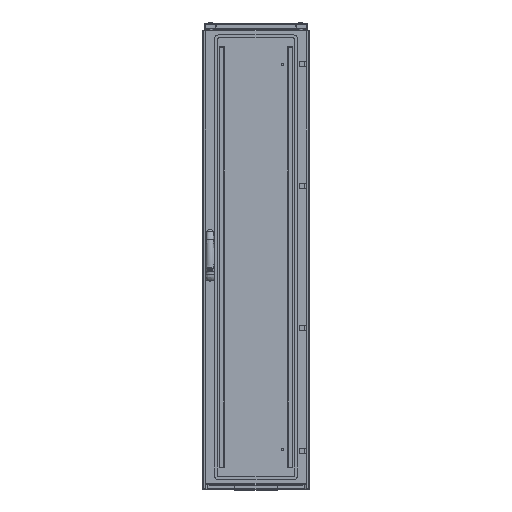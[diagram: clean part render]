
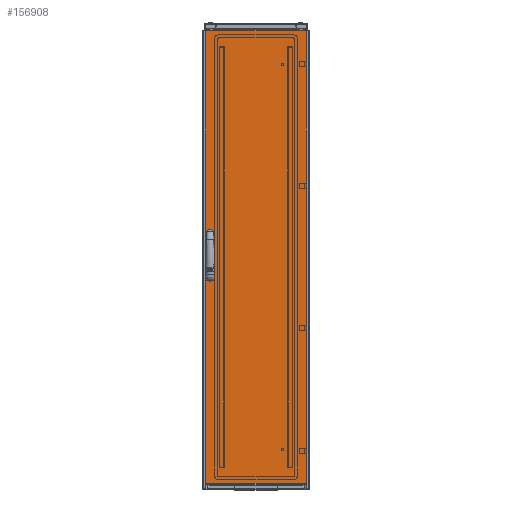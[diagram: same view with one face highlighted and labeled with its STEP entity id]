
A CAD part, top view. The second image highlights one B-rep face of the part: STEP entity #156908.
In plain terms, the highlighted planar face has unit normal (0, 0, 1).
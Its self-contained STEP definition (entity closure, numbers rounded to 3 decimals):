
#3746 = LINE ( 'NONE', #91795, #67844 ) ;
#7343 = ORIENTED_EDGE ( 'NONE', *, *, #113097, .F. ) ;
#15153 = VECTOR ( 'NONE', #106034, 1000. ) ;
#16876 = VERTEX_POINT ( 'NONE', #251259 ) ;
#19387 = EDGE_LOOP ( 'NONE', ( #196636, #264449, #124843, #31586 ) ) ;
#22977 = VERTEX_POINT ( 'NONE', #36073 ) ;
#29112 = ORIENTED_EDGE ( 'NONE', *, *, #128283, .F. ) ;
#31586 = ORIENTED_EDGE ( 'NONE', *, *, #280177, .T. ) ;
#35603 = EDGE_CURVE ( 'NONE', #265629, #190950, #126557, .T. ) ;
#36073 = CARTESIAN_POINT ( 'NONE',  ( 9.7, 912.25, 19. ) ) ;
#37321 = CARTESIAN_POINT ( 'NONE',  ( 3., 1760., 19. ) ) ;
#39579 = CARTESIAN_POINT ( 'NONE',  ( 9.7, 960.25, 19. ) ) ;
#45654 = CARTESIAN_POINT ( 'NONE',  ( 28.7, 960.25, 19. ) ) ;
#45931 = CARTESIAN_POINT ( 'NONE',  ( 28.7, 912.25, 19. ) ) ;
#49970 = CARTESIAN_POINT ( 'NONE',  ( 28.7, 847.75, 19. ) ) ;
#53926 = AXIS2_PLACEMENT_3D ( 'NONE', #73360, #253745, #161436 ) ;
#55472 = DIRECTION ( 'NONE',  ( -1., 0., 0. ) ) ;
#56700 = AXIS2_PLACEMENT_3D ( 'NONE', #185427, #75682, #55472 ) ;
#56978 = ORIENTED_EDGE ( 'NONE', *, *, #247318, .F. ) ;
#58308 = EDGE_CURVE ( 'NONE', #190950, #285901, #178411, .T. ) ;
#61693 = DIRECTION ( 'NONE',  ( 0., 1., 0. ) ) ;
#65871 = LINE ( 'NONE', #45654, #76216 ) ;
#67844 = VECTOR ( 'NONE', #178436, 1000. ) ;
#70345 = CARTESIAN_POINT ( 'NONE',  ( 19.2, 799.75, 19. ) ) ;
#71611 = VECTOR ( 'NONE', #275386, 1000. ) ;
#73249 = CARTESIAN_POINT ( 'NONE',  ( 3., 3., 19. ) ) ;
#73360 = CARTESIAN_POINT ( 'NONE',  ( 19.2, 847.75, 19. ) ) ;
#74269 = DIRECTION ( 'NONE',  ( 1., 0., 0. ) ) ;
#75623 = VERTEX_POINT ( 'NONE', #45931 ) ;
#75682 = DIRECTION ( 'NONE',  ( 0., 0., -1. ) ) ;
#76216 = VECTOR ( 'NONE', #153914, 1000. ) ;
#77670 = DIRECTION ( 'NONE',  ( 0., -1., 0. ) ) ;
#86568 = DIRECTION ( 'NONE',  ( 1., 0., 0. ) ) ;
#91795 = CARTESIAN_POINT ( 'NONE',  ( 0., 1757., 19. ) ) ;
#97354 = PLANE ( 'NONE',  #56700 ) ;
#104579 = LINE ( 'NONE', #39579, #15153 ) ;
#106034 = DIRECTION ( 'NONE',  ( 0., -1., 0. ) ) ;
#109324 = LINE ( 'NONE', #281238, #203464 ) ;
#109374 = EDGE_LOOP ( 'NONE', ( #56978, #29112, #7343, #120783 ) ) ;
#113097 = EDGE_CURVE ( 'NONE', #75623, #263819, #65871, .T. ) ;
#120783 = ORIENTED_EDGE ( 'NONE', *, *, #167755, .F. ) ;
#124843 = ORIENTED_EDGE ( 'NONE', *, *, #226341, .T. ) ;
#126557 = LINE ( 'NONE', #259399, #71611 ) ;
#127094 = CIRCLE ( 'NONE', #149499, 9.5 ) ;
#128283 = EDGE_CURVE ( 'NONE', #263819, #162283, #127094, .T. ) ;
#128315 = VECTOR ( 'NONE', #141360, 1000. ) ;
#132402 = VERTEX_POINT ( 'NONE', #73249 ) ;
#139595 = DIRECTION ( 'NONE',  ( 0., 0., 1. ) ) ;
#140233 = CARTESIAN_POINT ( 'NONE',  ( 19.2, 960.25, 19. ) ) ;
#141360 = DIRECTION ( 'NONE',  ( 0., -1., 0. ) ) ;
#144196 = CIRCLE ( 'NONE', #222576, 9.5 ) ;
#145591 = LINE ( 'NONE', #37321, #128315 ) ;
#146531 = ORIENTED_EDGE ( 'NONE', *, *, #58308, .F. ) ;
#148150 = EDGE_CURVE ( 'NONE', #16876, #265629, #144196, .T. ) ;
#149499 = AXIS2_PLACEMENT_3D ( 'NONE', #140233, #251387, #274458 ) ;
#151798 = ORIENTED_EDGE ( 'NONE', *, *, #217009, .F. ) ;
#153914 = DIRECTION ( 'NONE',  ( 0., 1., 0. ) ) ;
#156908 = ADVANCED_FACE ( 'NONE', ( #253283, #251839, #254676 ), #97354, .F. ) ;
#157233 = CARTESIAN_POINT ( 'NONE',  ( 392., 1757., 19. ) ) ;
#158911 = VERTEX_POINT ( 'NONE', #236476 ) ;
#161436 = DIRECTION ( 'NONE',  ( 1., 0., 0. ) ) ;
#162283 = VERTEX_POINT ( 'NONE', #203186 ) ;
#163505 = AXIS2_PLACEMENT_3D ( 'NONE', #171742, #284401, #86568 ) ;
#167755 = EDGE_CURVE ( 'NONE', #22977, #75623, #260221, .T. ) ;
#171466 = CARTESIAN_POINT ( 'NONE',  ( 28.7, 960.25, 19. ) ) ;
#171729 = CARTESIAN_POINT ( 'NONE',  ( 392., 3., 19. ) ) ;
#171742 = CARTESIAN_POINT ( 'NONE',  ( 19.2, 912.25, 19. ) ) ;
#178411 = CIRCLE ( 'NONE', #53926, 9.5 ) ;
#178436 = DIRECTION ( 'NONE',  ( -1., 0., 0. ) ) ;
#185427 = CARTESIAN_POINT ( 'NONE',  ( 0., 1760., 19. ) ) ;
#190950 = VERTEX_POINT ( 'NONE', #49970 ) ;
#196636 = ORIENTED_EDGE ( 'NONE', *, *, #272573, .T. ) ;
#201702 = VECTOR ( 'NONE', #77670, 1000. ) ;
#203186 = CARTESIAN_POINT ( 'NONE',  ( 9.7, 960.25, 19. ) ) ;
#203464 = VECTOR ( 'NONE', #61693, 1000. ) ;
#203973 = CARTESIAN_POINT ( 'NONE',  ( 9.7, 847.75, 19. ) ) ;
#204965 = EDGE_CURVE ( 'NONE', #222584, #158911, #3746, .T. ) ;
#209884 = CARTESIAN_POINT ( 'NONE',  ( 0., 3., 19. ) ) ;
#210465 = VECTOR ( 'NONE', #74269, 1000. ) ;
#211907 = CARTESIAN_POINT ( 'NONE',  ( 9.7, 847.75, 19. ) ) ;
#217009 = EDGE_CURVE ( 'NONE', #285901, #16876, #229325, .T. ) ;
#222576 = AXIS2_PLACEMENT_3D ( 'NONE', #70345, #139595, #227656 ) ;
#222584 = VERTEX_POINT ( 'NONE', #157233 ) ;
#225822 = VERTEX_POINT ( 'NONE', #171729 ) ;
#226341 = EDGE_CURVE ( 'NONE', #158911, #132402, #145591, .T. ) ;
#227656 = DIRECTION ( 'NONE',  ( 1., 0., 0. ) ) ;
#228736 = LINE ( 'NONE', #209884, #210465 ) ;
#229325 = LINE ( 'NONE', #211907, #201702 ) ;
#235405 = ORIENTED_EDGE ( 'NONE', *, *, #35603, .F. ) ;
#236476 = CARTESIAN_POINT ( 'NONE',  ( 3., 1757., 19. ) ) ;
#247318 = EDGE_CURVE ( 'NONE', #162283, #22977, #104579, .T. ) ;
#251259 = CARTESIAN_POINT ( 'NONE',  ( 9.7, 799.75, 19. ) ) ;
#251387 = DIRECTION ( 'NONE',  ( 0., 0., 1. ) ) ;
#251839 = FACE_BOUND ( 'NONE', #109374, .T. ) ;
#253283 = FACE_BOUND ( 'NONE', #275258, .T. ) ;
#253496 = ORIENTED_EDGE ( 'NONE', *, *, #148150, .F. ) ;
#253745 = DIRECTION ( 'NONE',  ( 0., 0., 1. ) ) ;
#254676 = FACE_OUTER_BOUND ( 'NONE', #19387, .T. ) ;
#259399 = CARTESIAN_POINT ( 'NONE',  ( 28.7, 847.75, 19. ) ) ;
#260221 = CIRCLE ( 'NONE', #163505, 9.5 ) ;
#263819 = VERTEX_POINT ( 'NONE', #171466 ) ;
#264449 = ORIENTED_EDGE ( 'NONE', *, *, #204965, .T. ) ;
#265629 = VERTEX_POINT ( 'NONE', #272979 ) ;
#272573 = EDGE_CURVE ( 'NONE', #225822, #222584, #109324, .T. ) ;
#272979 = CARTESIAN_POINT ( 'NONE',  ( 28.7, 799.75, 19. ) ) ;
#274458 = DIRECTION ( 'NONE',  ( 1., 0., 0. ) ) ;
#275258 = EDGE_LOOP ( 'NONE', ( #151798, #146531, #235405, #253496 ) ) ;
#275386 = DIRECTION ( 'NONE',  ( 0., 1., 0. ) ) ;
#280177 = EDGE_CURVE ( 'NONE', #132402, #225822, #228736, .T. ) ;
#281238 = CARTESIAN_POINT ( 'NONE',  ( 392., 1760., 19. ) ) ;
#284401 = DIRECTION ( 'NONE',  ( 0., 0., 1. ) ) ;
#285901 = VERTEX_POINT ( 'NONE', #203973 ) ;
